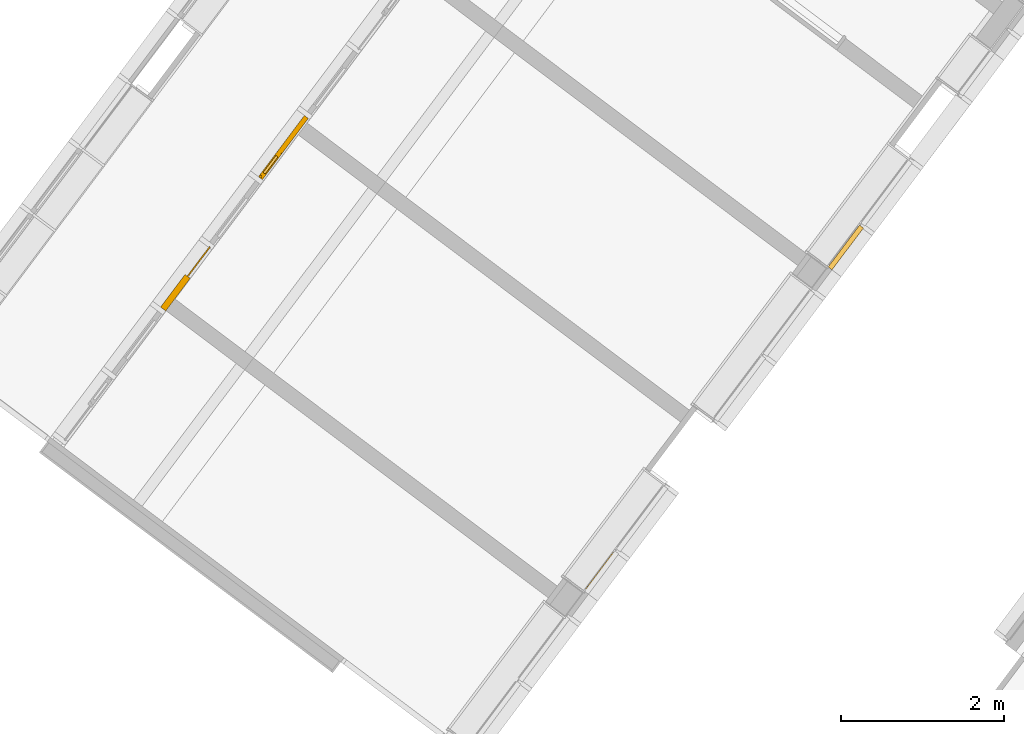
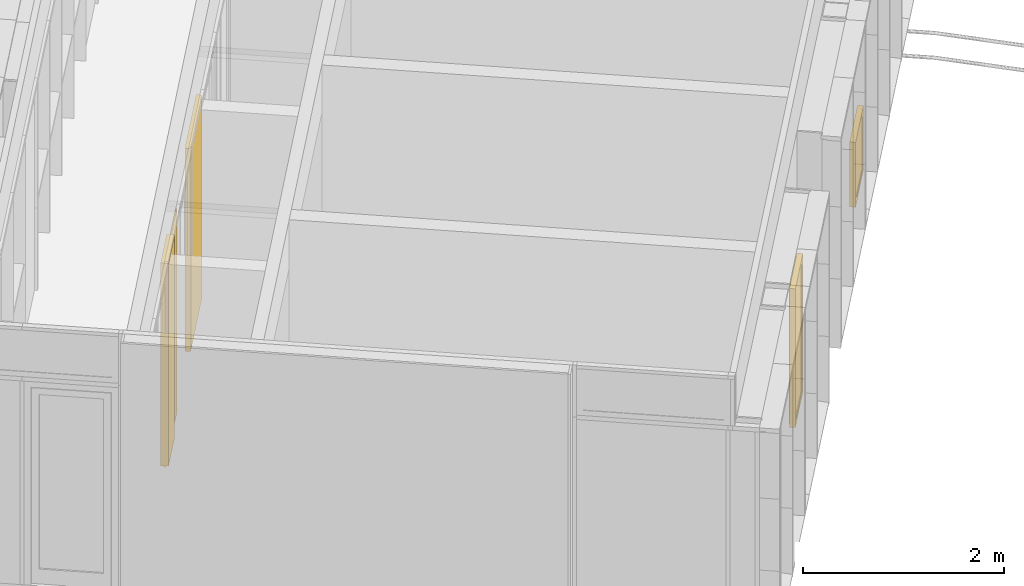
# One storey, part 225 of 243: 4 windows, 2 elements without a shape of their own.
"""IFC2X3 building model written with IfcOpenShell, lengths in metres."""

from ifc_helpers import new_model, entity, si_unit, converted_unit, derived_unit, direction, frame, origin, place, context, subcontext, project, spatial, faceted_brep, source, transform, mapped, material, material_list, type_object, type_shapes, element, aggregate, save


model = new_model("IFC2X3")

# Units and contexts
model_context = context("Model", 3, precision=1e-05, world=origin(), true_north=direction((6.123031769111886e-17, 1.0)))
body_context = subcontext(model_context, "Body", "Model", "MODEL_VIEW")
ifc_project = project(units=[si_unit("LENGTHUNIT", "METRE"), si_unit("AREAUNIT", "SQUARE_METRE"), si_unit("VOLUMEUNIT", "CUBIC_METRE"), converted_unit("PLANEANGLEUNIT", "DEGREE", entity("IfcRatioMeasure", 0.017453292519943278), si_unit("PLANEANGLEUNIT", "RADIAN"), dimensions=[0, 0, 0, 0, 0, 0, 0]), si_unit("MASSUNIT", "GRAM", prefix="KILO"), derived_unit("MASSDENSITYUNIT", [(si_unit("MASSUNIT", "GRAM", prefix="KILO"), 1), (si_unit("LENGTHUNIT", "METRE"), -3)]), derived_unit("IONCONCENTRATIONUNIT", [(si_unit("MASSUNIT", "GRAM", prefix="KILO"), 1), (si_unit("LENGTHUNIT", "METRE"), -3)]), derived_unit("MOMENTOFINERTIAUNIT", [(si_unit("LENGTHUNIT", "METRE"), 4)]), si_unit("TIMEUNIT", "SECOND"), si_unit("FREQUENCYUNIT", "HERTZ"), si_unit("THERMODYNAMICTEMPERATUREUNIT", "DEGREE_CELSIUS"), derived_unit("THERMALTRANSMITTANCEUNIT", [(si_unit("MASSUNIT", "GRAM", prefix="KILO"), 1), (si_unit("THERMODYNAMICTEMPERATUREUNIT", "KELVIN"), -1), (si_unit("TIMEUNIT", "SECOND"), -3)]), derived_unit("THERMALCONDUCTANCEUNIT", [(si_unit("MASSUNIT", "GRAM", prefix="KILO"), 1), (si_unit("THERMODYNAMICTEMPERATUREUNIT", "KELVIN"), -1), (si_unit("TIMEUNIT", "SECOND"), -3), (si_unit("LENGTHUNIT", "METRE"), 1)]), derived_unit("VOLUMETRICFLOWRATEUNIT", [(si_unit("LENGTHUNIT", "METRE"), 3), (si_unit("TIMEUNIT", "SECOND"), -1)]), derived_unit("MASSFLOWRATEUNIT", [(si_unit("MASSUNIT", "GRAM", prefix="KILO"), 1), (si_unit("TIMEUNIT", "SECOND"), -1)]), derived_unit("ROTATIONALFREQUENCYUNIT", [(si_unit("TIMEUNIT", "SECOND"), -1)]), si_unit("ELECTRICCURRENTUNIT", "AMPERE"), si_unit("ELECTRICVOLTAGEUNIT", "VOLT"), si_unit("POWERUNIT", "WATT"), si_unit("FORCEUNIT", "NEWTON", prefix="KILO"), si_unit("ILLUMINANCEUNIT", "LUX"), si_unit("LUMINOUSFLUXUNIT", "LUMEN"), si_unit("LUMINOUSINTENSITYUNIT", "CANDELA"), derived_unit("USERDEFINED", [(si_unit("MASSUNIT", "GRAM", prefix="KILO"), -1), (si_unit("LENGTHUNIT", "METRE"), -2), (si_unit("TIMEUNIT", "SECOND"), 3), (si_unit("LUMINOUSFLUXUNIT", "LUMEN"), 1)]), derived_unit("USERDEFINED", [(si_unit("MASSUNIT", "GRAM", prefix="KILO"), 1), (si_unit("TIMEUNIT", "SECOND"), -3), (si_unit("LENGTHUNIT", "METRE"), 3), (si_unit("ELECTRICCURRENTUNIT", "AMPERE"), -2)]), derived_unit("SOUNDPOWERUNIT", [(si_unit("MASSUNIT", "GRAM", prefix="KILO"), 1), (si_unit("TIMEUNIT", "SECOND"), -3), (si_unit("LENGTHUNIT", "METRE"), 2)]), derived_unit("SOUNDPRESSUREUNIT", [(si_unit("MASSUNIT", "GRAM", prefix="KILO"), 1), (si_unit("LENGTHUNIT", "METRE"), -1), (si_unit("TIMEUNIT", "SECOND"), -2)]), derived_unit("LINEARVELOCITYUNIT", [(si_unit("LENGTHUNIT", "METRE"), 1), (si_unit("TIMEUNIT", "SECOND"), -1)]), si_unit("PRESSUREUNIT", "PASCAL"), derived_unit("USERDEFINED", [(si_unit("MASSUNIT", "GRAM", prefix="KILO"), 1), (si_unit("LENGTHUNIT", "METRE"), -2), (si_unit("TIMEUNIT", "SECOND"), -2)]), derived_unit("LINEARFORCEUNIT", [(si_unit("MASSUNIT", "GRAM", prefix="KILO"), 1), (si_unit("TIMEUNIT", "SECOND"), -2)]), derived_unit("PLANARFORCEUNIT", [(si_unit("MASSUNIT", "GRAM", prefix="KILO"), 1), (si_unit("LENGTHUNIT", "METRE"), -1), (si_unit("TIMEUNIT", "SECOND"), -2)]), derived_unit("SPECIFICHEATCAPACITYUNIT", [(si_unit("THERMODYNAMICTEMPERATUREUNIT", "KELVIN"), -1), (si_unit("LENGTHUNIT", "METRE"), 2), (si_unit("TIMEUNIT", "SECOND"), -2)]), derived_unit("HEATINGVALUEUNIT", [(si_unit("LENGTHUNIT", "METRE"), 2), (si_unit("TIMEUNIT", "SECOND"), -2)]), derived_unit("VAPORPERMEABILITYUNIT", [(si_unit("LENGTHUNIT", "METRE"), -1), (si_unit("TIMEUNIT", "SECOND"), 1)]), derived_unit("DYNAMICVISCOSITYUNIT", [(si_unit("MASSUNIT", "GRAM", prefix="KILO"), 1), (si_unit("TIMEUNIT", "SECOND"), -1), (si_unit("LENGTHUNIT", "METRE"), -1)]), derived_unit("THERMALEXPANSIONCOEFFICIENTUNIT", [(si_unit("THERMODYNAMICTEMPERATUREUNIT", "KELVIN"), -1)]), derived_unit("MODULUSOFELASTICITYUNIT", [(si_unit("MASSUNIT", "GRAM", prefix="KILO"), 1), (si_unit("LENGTHUNIT", "METRE"), -1), (si_unit("TIMEUNIT", "SECOND"), -2)]), derived_unit("ISOTHERMALMOISTURECAPACITYUNIT", [(si_unit("LENGTHUNIT", "METRE"), 3), (si_unit("MASSUNIT", "GRAM", prefix="KILO"), -1)]), derived_unit("MOISTUREDIFFUSIVITYUNIT", [(si_unit("TIMEUNIT", "SECOND"), -1), (si_unit("LENGTHUNIT", "METRE"), 2)])], contexts=[model_context])

# Site, building, storey
site_placement = place(None, frame((0.0, 0.0, 235.0), z_axis=(0.0, 0.0, 1.0), x_axis=(-0.7996477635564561, 0.6004693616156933, 0.0)))
site = spatial("IfcSite", under=ifc_project, at=site_placement, Name="Default", CompositionType="ELEMENT")
building_placement = place(site_placement, origin())
building = spatial("IfcBuilding", under=site, at=building_placement, CompositionType="ELEMENT")
storey_placement = place(building_placement, origin())
storey = spatial("IfcBuildingStorey", under=building, at=storey_placement, Name="P0- Escola", CompositionType="ELEMENT", Elevation=0.0)

# Curtain wall, windows
curtain_wall_type_1 = type_object("IfcCurtainWallType", Name="Muro cortina:MC- INT- a2", PredefinedType="NOTDEFINED")
curtain_wall_1_placement = place(storey_placement, origin())
curtain_wall_1 = element("IfcCurtainWall", 1, at=curtain_wall_1_placement, inside=storey, type_object=curtain_wall_type_1, Name="Muro cortina:MC- INT- a2", ObjectType="Muro cortina:MC- INT- a2")
ifc_material_1 = material(Name="_Fusta massisa- T1-  REV- PAV")
window_style_1 = type_object("IfcWindowStyle", Name="MC- Fusta- Finestra ventilacio interior:MC- Fusta- Finestra ventilacio interior", ConstructionType="NOTDEFINED", OperationType="NOTDEFINED", ParameterTakesPrecedence=False, Sizeable=False, material=ifc_material_1)
shared_shape_1 = source(origin(), body_context, "Body", "Brep", [
    faceted_brep([(-0.3930000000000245, 0.025000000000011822, 2.382999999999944), (-0.3930000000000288, 0.025000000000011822, 1.0449999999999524), (-0.13200000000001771, 0.0250000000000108, 1.0449999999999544), (-0.13200000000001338, 0.02500000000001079, 2.382999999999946), (-0.13200000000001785, -0.004999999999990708, 1.0449999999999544), (-0.13200000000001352, -0.004999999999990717, 2.382999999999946), (-0.393000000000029, -0.004999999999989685, 1.0449999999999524), (-0.39300000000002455, -0.004999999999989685, 2.382999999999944), (-0.08700000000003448, 0.04000000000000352, 2.427999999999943), (-0.0870000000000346, 0.01000000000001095, 2.428000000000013), (-0.08700000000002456, 0.010000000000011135, 1.0), (-0.08700000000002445, 0.04000000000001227, 1.0), (-0.4380000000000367, 0.010000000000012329, 1.0), (-0.4380000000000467, 0.010000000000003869, 2.427999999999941), (-0.43800000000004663, 0.0400000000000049, 2.427999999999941), (-0.4380000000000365, 0.04000000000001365, 1.0), (-0.07200000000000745, 0.009999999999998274, 0.9850000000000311), (-0.4530000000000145, 0.009999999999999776, 0.9850000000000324), (-0.4530000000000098, 0.010000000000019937, 2.4430000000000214), (-0.07200000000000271, 0.010000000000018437, 2.44300000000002), (-0.07200000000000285, -0.019999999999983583, 2.443000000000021), (-0.4530000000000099, -0.019999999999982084, 2.443000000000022), (-0.45300000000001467, -0.02000000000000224, 0.985000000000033), (-0.07200000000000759, -0.020000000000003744, 0.9850000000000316)], [[[0, 1, 2, 3]], [[3, 2, 4, 5]], [[5, 4, 6, 7]], [[1, 0, 7, 6]], [[8, 9, 10, 11]], [[12, 13, 14, 15]], [[13, 9, 8, 14]], [[8, 11, 15, 14]], [[0, 3, 5, 7]], [[2, 1, 6, 4]], [[11, 10, 12, 15]], [[9, 13, 12, 10], [16, 17, 18, 19]], [[20, 21, 22, 23]], [[20, 19, 18, 21]], [[16, 19, 20, 23]], [[18, 17, 22, 21]], [[16, 23, 22, 17]]], outer=[[True], [True], [True], [True], [True], [True], [True], [True], [True], [True], [True], [False, True], [True], [True], [True], [True], [True]]),
    faceted_brep([(0.46500000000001, -0.019999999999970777, 2.4549999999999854), (-0.465000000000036, -0.019999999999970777, 2.4549999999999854), (-0.46499999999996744, -0.020000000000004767, 0.005000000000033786), (0.46500000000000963, -0.020000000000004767, 0.0050000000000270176), (-0.45500000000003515, -0.019999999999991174, 0.9850000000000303), (-0.4550000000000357, -0.01999999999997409, 2.4449999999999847), (-0.07000000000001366, -0.019999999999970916, 2.4449999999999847), (-0.07000000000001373, -0.019999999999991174, 0.9850000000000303), (-0.4650000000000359, -0.01599999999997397, 2.454999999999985), (-0.46500000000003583, -0.01600000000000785, 0.005000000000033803), (0.4650000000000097, -0.01600000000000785, 0.005000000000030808), (0.4650000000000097, -0.01599999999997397, 2.4549999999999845), (-0.470000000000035, -0.015999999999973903, 2.459999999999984), (-0.4699999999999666, -0.016000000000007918, 0.0), (0.47000000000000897, -0.016000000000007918, 0.0), (0.47000000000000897, -0.015999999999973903, 2.459999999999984), (0.46500000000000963, 0.03600000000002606, 2.454999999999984), (-0.4650000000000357, 0.03600000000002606, 2.454999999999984), (-0.46499999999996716, 0.03599999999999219, 0.005000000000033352), (0.46500000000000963, 0.03599999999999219, 0.005000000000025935), (0.4700000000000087, 0.036000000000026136, 2.4599999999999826), (0.47000000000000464, 0.03599999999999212, 0.0), (-0.4700000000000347, 0.03599999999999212, 0.0), (-0.4700000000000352, 0.036000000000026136, 2.459999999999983), (-0.46499999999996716, 0.03999999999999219, 0.005000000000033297), (0.4650000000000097, 0.03999999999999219, 0.005000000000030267), (-0.4650000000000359, 0.040000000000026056, 2.4550000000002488), (0.4650000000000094, 0.040000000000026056, 2.454999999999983), (-0.08500000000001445, 0.04000000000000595, 1.0), (-0.08500000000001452, 0.04000000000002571, 2.4299999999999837), (-0.4400000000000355, 0.040000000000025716, 2.4299999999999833), (-0.4400000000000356, 0.04000000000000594, 1.0), (-0.4400000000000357, 0.01000000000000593, 1.0), (-0.44000000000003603, 0.010000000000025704, 2.4299999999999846), (-0.08500000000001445, 0.010000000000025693, 2.4299999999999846), (-0.08500000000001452, 0.010000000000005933, 1.0), (-0.45500000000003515, 0.010000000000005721, 0.9850000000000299), (-0.08500000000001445, 0.010000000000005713, 0.9850000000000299), (-0.07000000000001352, 0.010000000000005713, 0.9850000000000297), (-0.07000000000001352, 0.0100000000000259, 2.444999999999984), (-0.08500000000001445, 0.0100000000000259, 2.444999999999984), (-0.4550000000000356, 0.010000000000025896, 2.4449999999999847)], [[[0, 1, 2, 3], [4, 5, 6, 7]], [[8, 9, 2, 1]], [[3, 2, 9, 10]], [[10, 9, 8, 11], [12, 13, 14, 15]], [[16, 17, 18, 19], [20, 21, 22, 23]], [[19, 18, 24, 25]], [[25, 24, 26, 27], [28, 29, 30, 31]], [[32, 33, 34, 35], [36, 37, 38, 39, 40, 41]], [[28, 31, 32, 35]], [[35, 34, 29, 28]], [[33, 32, 31, 30]], [[5, 4, 36, 41]], [[7, 6, 39, 38]], [[38, 37, 36, 4, 7]], [[0, 3, 10, 11]], [[16, 19, 25, 27]], [[15, 14, 21, 20]], [[14, 13, 22, 21]], [[23, 22, 13, 12]], [[1, 0, 11, 8]], [[12, 15, 20, 23]], [[41, 40, 39, 6, 5]], [[30, 29, 34, 33]], [[17, 16, 27, 26]], [[26, 24, 18, 17]]], outer=[[True, False], [True], [True], [False, True], [False, True], [True], [True, False], [False, True], [True], [True], [True], [True], [True], [True], [True], [True], [True], [True], [True], [True], [True], [True], [True], [True], [True]]),
])
type_shapes(window_style_1, [shared_shape_1])
window_1_placement = place(curtain_wall_1_placement, frame((34.62014768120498, -24.91519175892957, 0.059999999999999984), z_axis=(0.0, 0.0, 1.0), x_axis=(0.0, -1.0, 0.0)))
window_1 = element("IfcWindow", 2, at=window_1_placement, type_object=window_style_1, material=ifc_material_1, Name="MC- Fusta- Finestra ventilacio interior:MC- Fusta- Finestra ventilacio interior", ObjectType="MC- Fusta- Finestra ventilacio interior:MC- Fusta- Finestra ventilacio interior", OverallHeight=2.460000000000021, OverallWidth=0.9400000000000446, context=body_context, shape_type="MappedRepresentation", body=[
    mapped(shared_shape_1, transform((0.0, 0.0, 0.0), scale=1.0)),
])
ifc_material_2 = material(Name="_Fusta massisa- T1")
ifc_material_3 = material(Name="_Vidre")
ifc_material_list_1 = material_list([ifc_material_2, ifc_material_3])
window_style_2 = type_object("IfcWindowStyle", Name="MC- Fusta- vidre fix + part opaca- amb muntant inferior:MC- Fusta- vidre fix + part opaca- amb muntant inferior", ConstructionType="NOTDEFINED", OperationType="NOTDEFINED", ParameterTakesPrecedence=False, Sizeable=False, material=ifc_material_list_1)
shared_shape_2 = source(origin(), body_context, "Body", "Brep", [
    faceted_brep([(0.007500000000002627, -0.010000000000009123, 0.014999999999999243), (0.022500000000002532, -0.010000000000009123, 0.014999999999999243), (0.022500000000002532, -0.04000000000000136, 0.014999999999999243), (-0.4774999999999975, -0.04000000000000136, 0.014999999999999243), (-0.4774999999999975, -0.007999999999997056, 0.014999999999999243), (0.007500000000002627, -0.007999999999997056, 0.014999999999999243), (0.022500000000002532, 0.040000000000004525, 2.475), (0.022500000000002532, 0.010000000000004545, 2.475), (0.022500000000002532, 0.010000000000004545, 0.014999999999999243), (0.022500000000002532, 0.040000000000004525, 0.014999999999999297), (0.007500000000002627, 0.010000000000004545, 2.475), (0.007500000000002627, 0.010000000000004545, 0.014999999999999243), (0.007500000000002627, -0.010000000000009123, 2.475), (0.007500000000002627, -0.007999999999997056, 0.0), (0.007500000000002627, 0.008000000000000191, 0.0), (0.007500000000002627, 0.008000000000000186, 0.014999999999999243), (-0.4774999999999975, 0.008000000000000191, 0.0), (-0.4774999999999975, 0.008000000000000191, 0.014999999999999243), (-0.4774999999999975, -0.04000000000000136, 2.475), (-0.4774999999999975, 0.040000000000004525, 2.475), (-0.4774999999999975, 0.040000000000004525, 0.014999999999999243), (-0.4774999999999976, -0.007999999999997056, 0.0), (0.022500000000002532, -0.010000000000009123, 2.475), (0.022500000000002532, -0.04000000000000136, 2.475)], [[[0, 1, 2, 3, 4, 5]], [[6, 7, 8, 9]], [[7, 10, 11, 8]], [[10, 12, 0, 5, 13, 14, 15, 11]], [[14, 16, 17, 15]], [[18, 19, 20, 17, 16, 21, 4, 3]], [[19, 6, 9, 20]], [[12, 22, 1, 0]], [[22, 23, 2, 1]], [[23, 18, 3, 2]], [[21, 13, 5, 4]], [[14, 13, 21, 16]], [[6, 19, 18, 23, 22, 12, 10, 7]], [[9, 8, 11, 15, 17, 20]]]),
    faceted_brep([(0.4774999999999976, 0.007999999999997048, 0.0), (0.4774999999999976, -0.007999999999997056, 0.0), (0.007500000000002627, -0.007999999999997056, 0.0), (0.007500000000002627, 0.007999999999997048, 0.0), (0.4774999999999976, 0.007999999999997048, 2.475), (0.4774999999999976, -0.007999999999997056, 2.475), (0.007500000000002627, -0.007999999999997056, 2.475), (0.007500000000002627, 0.007999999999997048, 2.475)], [[[0, 1, 2, 3]], [[4, 5, 1, 0]], [[5, 6, 2, 1]], [[6, 7, 3, 2]], [[7, 4, 0, 3]], [[4, 7, 6, 5]]]),
])
type_shapes(window_style_2, [shared_shape_2])
window_2_placement = place(curtain_wall_1_placement, frame((34.62014768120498, -22.922691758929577, 0.045000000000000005), z_axis=(0.0, 0.0, 1.0), x_axis=(0.0, -1.0, 0.0)))
window_2 = element("IfcWindow", 3, at=window_2_placement, type_object=window_style_2, material=ifc_material_list_1, Name="MC- Fusta- vidre fix + part opaca- amb muntant inferior:MC- Fusta- vidre fix + part opaca- amb muntant inferior", ObjectType="MC- Fusta- vidre fix + part opaca- amb muntant inferior:MC- Fusta- vidre fix + part opaca- amb muntant inferior", OverallHeight=2.475, OverallWidth=0.9549999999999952, context=body_context, shape_type="MappedRepresentation", body=[
    mapped(shared_shape_2, transform((0.0, 0.0, 0.0), scale=1.0)),
])
aggregate(curtain_wall_1, [window_1, window_2])

curtain_wall_type_2 = type_object("IfcCurtainWallType", Name="Muro cortina:MC- EXT- MC2", PredefinedType="NOTDEFINED")
curtain_wall_2_placement = place(storey_placement, origin())
curtain_wall_2 = element("IfcCurtainWall", 4, at=curtain_wall_2_placement, inside=storey, type_object=curtain_wall_type_2, Name="Muro cortina:MC- EXT- MC2", ObjectType="Muro cortina:MC- EXT- MC2")
ifc_material_4 = material(Name="_Alumini- T1- Perfil")
ifc_material_list_2 = material_list([ifc_material_3, ifc_material_4])
window_style_3 = type_object("IfcWindowStyle", Name="MC- Alu- Conjunt vidre fix- 62x60 cm:MC- Alu- Conjunt vidre fix- 62x60 cm", ConstructionType="NOTDEFINED", OperationType="NOTDEFINED", ParameterTakesPrecedence=False, Sizeable=False, material=ifc_material_list_2)
shared_shape_3 = source(origin(), body_context, "Body", "Brep", [
    faceted_brep([(0.27202662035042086, -0.007600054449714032, 0.048806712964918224), (0.27202662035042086, -0.03160022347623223, 0.048806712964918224), (-0.2720266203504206, -0.03160022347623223, 0.048806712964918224), (-0.2720266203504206, -0.007600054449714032, 0.048806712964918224), (0.27202662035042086, -0.007600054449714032, 0.7387000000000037), (-0.2720266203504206, -0.007600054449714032, 0.7387000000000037), (-0.2720266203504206, -0.03160022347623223, 0.7387000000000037), (0.27202662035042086, -0.03160022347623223, 0.7387000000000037)], [[[0, 1, 2, 3]], [[4, 0, 3, 5]], [[5, 3, 2, 6]], [[6, 2, 1, 7]], [[7, 1, 0, 4]], [[4, 5, 6, 7]]]),
    faceted_brep([(0.320833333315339, -0.05999999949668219, 0.7877000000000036), (0.320833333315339, -0.05999999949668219, 0.0), (0.320833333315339, 0.0, 0.0), (0.320833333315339, 0.0, 0.7877000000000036), (-0.320833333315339, 0.0, 0.7877000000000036), (-0.320833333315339, 0.0, 0.0), (0.2580265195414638, 0.0, 0.7248931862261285), (-0.25802651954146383, 0.0, 0.7248931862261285), (-0.2580265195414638, 0.0, 0.06280681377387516), (0.25802651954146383, 0.0, 0.06280681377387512), (-0.320833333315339, -0.05999999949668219, 0.0), (-0.320833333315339, -0.05999999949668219, 0.7877000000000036), (-0.25802936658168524, -0.05999999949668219, 0.72489603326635), (0.25802936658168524, -0.05999999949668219, 0.72489603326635), (0.25802936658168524, -0.05999999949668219, 0.0628039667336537), (-0.25802936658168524, -0.05999999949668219, 0.0628039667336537), (0.2580293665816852, -0.03160022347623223, 0.7248960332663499), (0.25802936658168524, -0.03160022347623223, 0.0628039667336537), (-0.25802936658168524, -0.03160022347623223, 0.0628039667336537), (-0.2580293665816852, -0.03160022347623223, 0.7248960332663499), (-0.2720266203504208, -0.03160022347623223, 0.7388932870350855), (0.2720266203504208, -0.03160022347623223, 0.7388932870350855), (0.2720266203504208, -0.03160022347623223, 0.048806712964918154), (-0.2720266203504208, -0.03160022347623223, 0.04880671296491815), (0.2720266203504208, -0.007600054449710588, 0.7388932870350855), (0.2720266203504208, -0.007600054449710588, 0.04880671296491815), (-0.2720266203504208, -0.007600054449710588, 0.04880671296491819), (-0.2720266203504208, -0.007600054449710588, 0.7388932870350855), (-0.25802651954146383, -0.007600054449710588, 0.7248931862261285), (0.25802651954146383, -0.007600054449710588, 0.7248931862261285), (0.25802651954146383, -0.007600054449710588, 0.06280681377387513), (-0.25802651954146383, -0.007600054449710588, 0.06280681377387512)], [[[0, 1, 2, 3]], [[4, 3, 2, 5], [6, 7, 8, 9]], [[1, 10, 5, 2]], [[0, 11, 10, 1], [12, 13, 14, 15]], [[16, 17, 14, 13]], [[17, 18, 15, 14]], [[16, 19, 18, 17], [20, 21, 22, 23]], [[24, 25, 22, 21]], [[25, 26, 23, 22]], [[24, 27, 26, 25], [28, 29, 30, 31]], [[6, 9, 30, 29]], [[9, 8, 31, 30]], [[10, 11, 4, 5]], [[18, 19, 12, 15]], [[26, 27, 20, 23]], [[8, 7, 28, 31]], [[11, 0, 3, 4]], [[19, 16, 13, 12]], [[27, 24, 21, 20]], [[7, 6, 29, 28]]], outer=[[True], [True, False], [True], [True, False], [True], [True], [False, True], [True], [True], [True, False], [True], [True], [True], [True], [True], [True], [True], [True], [True], [True]]),
])
type_shapes(window_style_3, [shared_shape_3])
window_3_placement = place(curtain_wall_2_placement, frame((28.34514768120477, -28.07935842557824, 0.03229999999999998), z_axis=(0.0, 0.0, 1.0), x_axis=(0.0, 1.0, 0.0)))
window_3 = element("IfcWindow", 5, at=window_3_placement, type_object=window_style_3, material=ifc_material_list_2, Name="MC- Alu- Conjunt vidre fix- 62x60 cm:MC- Alu- Conjunt vidre fix- 62x60 cm", ObjectType="MC- Alu- Conjunt vidre fix- 62x60 cm:MC- Alu- Conjunt vidre fix- 62x60 cm", OverallHeight=0.7877000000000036, OverallWidth=0.641666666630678, context=body_context, shape_type="MappedRepresentation", body=[
    mapped(shared_shape_3, transform((0.0, 0.0, 0.0), scale=1.0)),
])
window_style_4 = type_object("IfcWindowStyle", Name="MC- Alu- Conjunt finestra basculant- 68x68 cm:MC- Alu- Conjunt finestra basculant- 68x68 cm", ConstructionType="NOTDEFINED", OperationType="NOTDEFINED", ParameterTakesPrecedence=False, Sizeable=False, material=ifc_material_list_2)
shared_shape_4 = source(origin(), body_context, "Body", "Brep", [
    faceted_brep([(0.25764562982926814, -0.03559830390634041, 0.051999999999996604), (-0.25764562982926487, -0.03559830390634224, 0.051999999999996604), (-0.257645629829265, -0.011598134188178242, 0.051999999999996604), (0.25764562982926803, -0.01159813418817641, 0.051999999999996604), (0.25764562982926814, -0.03559830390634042, 1.6315527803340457), (0.25764562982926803, -0.01159813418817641, 1.6315527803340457), (-0.2576456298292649, -0.011598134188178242, 1.6315527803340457), (-0.25764562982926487, -0.03559830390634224, 1.6315527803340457)], [[[0, 1, 2, 3]], [[4, 0, 3, 5]], [[5, 3, 2, 6]], [[6, 2, 1, 7]], [[7, 1, 0, 4]], [[4, 5, 6, 7]]]),
    faceted_brep([(-0.24194480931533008, -0.00999812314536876, 1.615851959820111), (-0.24194480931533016, -0.00999812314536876, 0.06789804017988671), (-0.24194480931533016, -0.007998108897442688, 0.06789804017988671), (-0.24194480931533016, -0.007998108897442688, 1.6158519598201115), (-0.27084284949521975, -0.00799810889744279, 1.644750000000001), (0.2708428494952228, -0.007998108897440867, 1.644750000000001), (0.2708428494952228, -0.007998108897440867, 0.03899999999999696), (-0.27084284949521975, -0.00799810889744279, 0.03899999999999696), (0.2419448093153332, -0.007998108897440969, 1.6158519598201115), (0.2419448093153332, -0.007998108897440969, 0.06789804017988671), (0.2419448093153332, -0.009998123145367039, 0.06789804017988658), (0.24194480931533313, -0.009998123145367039, 1.615851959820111), (0.25764562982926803, -0.009998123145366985, 1.6315527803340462), (-0.257645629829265, -0.009998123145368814, 1.6315527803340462), (-0.257645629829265, -0.009998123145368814, 0.05219721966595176), (0.25764562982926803, -0.009998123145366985, 0.05219721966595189), (-0.2576456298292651, -0.04079986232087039, 1.6315527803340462), (-0.25764562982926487, -0.04079986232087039, 0.05219721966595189), (0.25764562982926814, -0.04079986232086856, 0.05219721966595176), (0.2576456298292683, -0.04079986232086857, 1.6315527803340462), (0.2419448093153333, -0.040799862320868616, 1.6158519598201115), (-0.24194480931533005, -0.040799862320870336, 1.6158519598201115), (-0.24194480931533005, -0.040799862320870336, 0.06789804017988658), (0.2419448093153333, -0.040799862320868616, 0.06789804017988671), (-0.24194480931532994, -0.06800005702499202, 1.6158519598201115), (-0.24194480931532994, -0.06800005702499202, 0.06789804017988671), (0.24194480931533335, -0.0680000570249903, 0.06789804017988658), (0.2419448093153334, -0.0680000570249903, 1.6158519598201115), (0.2883468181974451, -0.06800005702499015, 1.662253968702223), (-0.2883468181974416, -0.06800005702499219, 1.662253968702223), (-0.2883468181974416, -0.06800005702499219, 0.021496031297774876), (0.2883468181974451, -0.06800005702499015, 0.021496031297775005), (-0.2883468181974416, -0.06450003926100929, 1.662253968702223), (-0.2883468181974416, -0.06450003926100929, 0.021496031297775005), (0.2883468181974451, -0.06450003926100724, 0.021496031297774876), (0.2883468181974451, -0.06450003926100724, 1.662253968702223), (0.270842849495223, -0.0645000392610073, 1.644750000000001), (-0.2708428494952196, -0.06450003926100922, 1.644750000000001), (-0.2708428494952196, -0.06450003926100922, 0.03899999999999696), (0.270842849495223, -0.0645000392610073, 0.03899999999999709)], [[[0, 1, 2, 3]], [[4, 5, 6, 7], [8, 3, 2, 9]], [[1, 10, 9, 2]], [[0, 11, 10, 1], [12, 13, 14, 15]], [[16, 17, 14, 13]], [[17, 18, 15, 14]], [[16, 19, 18, 17], [20, 21, 22, 23]], [[24, 25, 22, 21]], [[25, 26, 23, 22]], [[24, 27, 26, 25], [28, 29, 30, 31]], [[32, 33, 30, 29]], [[33, 34, 31, 30]], [[32, 35, 34, 33], [36, 37, 38, 39]], [[4, 7, 38, 37]], [[7, 6, 39, 38]], [[10, 11, 8, 9]], [[18, 19, 12, 15]], [[26, 27, 20, 23]], [[34, 35, 28, 31]], [[6, 5, 36, 39]], [[11, 0, 3, 8]], [[19, 16, 13, 12]], [[27, 24, 21, 20]], [[35, 32, 29, 28]], [[5, 4, 37, 36]]], outer=[[True], [True, False], [True], [False, True], [True], [True], [True, False], [True], [True], [False, True], [True], [True], [True, False], [True], [True], [True], [True], [True], [True], [True], [True], [True], [True], [True], [True]]),
    faceted_brep([(0.24692710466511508, 0.0, 1.6209431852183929), (0.2469271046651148, 0.0, 0.06280681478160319), (0.2469271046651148, -0.0040000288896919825, 0.06280681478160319), (0.24692710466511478, -0.0040000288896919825, 1.6209431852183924), (-0.24692710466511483, -0.0040000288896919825, 1.6209431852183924), (-0.2469271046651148, -0.0040000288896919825, 0.06280681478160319), (0.28233372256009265, -0.0040000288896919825, 1.6563498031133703), (-0.28233372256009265, -0.0040000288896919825, 1.6563498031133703), (-0.28233372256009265, -0.0040000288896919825, 0.02740019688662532), (0.28233372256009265, -0.0040000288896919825, 0.027400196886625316), (-0.2469271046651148, 0.0, 0.06280681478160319), (-0.24692710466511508, 0.0, 1.6209431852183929), (-0.30973391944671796, 0.0, 1.6837499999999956), (0.30973391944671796, 0.0, 1.6837499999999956), (0.30973391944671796, 0.0, 0.0), (-0.30973391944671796, 0.0, 0.0), (0.30973391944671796, -0.05999999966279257, 1.6837499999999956), (0.30973391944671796, -0.05999999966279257, 0.0), (-0.30973391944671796, -0.05999999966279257, 0.0), (-0.30973391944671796, -0.05999999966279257, 1.6837499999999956), (-0.2823337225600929, -0.05999999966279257, 1.6563498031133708), (0.2823337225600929, -0.05999999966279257, 1.6563498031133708), (0.2823337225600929, -0.05999999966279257, 0.02740019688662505), (-0.2823337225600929, -0.05999999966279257, 0.027400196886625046)], [[[0, 1, 2, 3]], [[4, 3, 2, 5], [6, 7, 8, 9]], [[1, 10, 5, 2]], [[0, 11, 10, 1], [12, 13, 14, 15]], [[16, 17, 14, 13]], [[17, 18, 15, 14]], [[16, 19, 18, 17], [20, 21, 22, 23]], [[6, 9, 22, 21]], [[9, 8, 23, 22]], [[10, 11, 4, 5]], [[18, 19, 12, 15]], [[8, 7, 20, 23]], [[11, 0, 3, 4]], [[19, 16, 13, 12]], [[7, 6, 21, 20]]], outer=[[True], [False, True], [True], [False, True], [True], [True], [True, False], [True], [True], [True], [True], [True], [True], [True], [True]]),
])
type_shapes(window_style_4, [shared_shape_4])
window_4_placement = place(curtain_wall_2_placement, frame((28.34514768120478, -23.09045783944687, 0.8200000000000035), z_axis=(0.0, 0.0, 1.0), x_axis=(0.0, 1.0, 0.0)))
window_4 = element("IfcWindow", 6, at=window_4_placement, type_object=window_style_4, material=ifc_material_list_2, Name="MC- Alu- Conjunt finestra basculant- 68x68 cm:MC- Alu- Conjunt finestra basculant- 68x68 cm", ObjectType="MC- Alu- Conjunt finestra basculant- 68x68 cm:MC- Alu- Conjunt finestra basculant- 68x68 cm", OverallHeight=1.6837499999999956, OverallWidth=0.6194678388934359, context=body_context, shape_type="MappedRepresentation", body=[
    mapped(shared_shape_4, transform((0.0, 0.0, 0.0), scale=1.0)),
])
aggregate(curtain_wall_2, [window_3, window_4])

save(model, "model.ifc")
